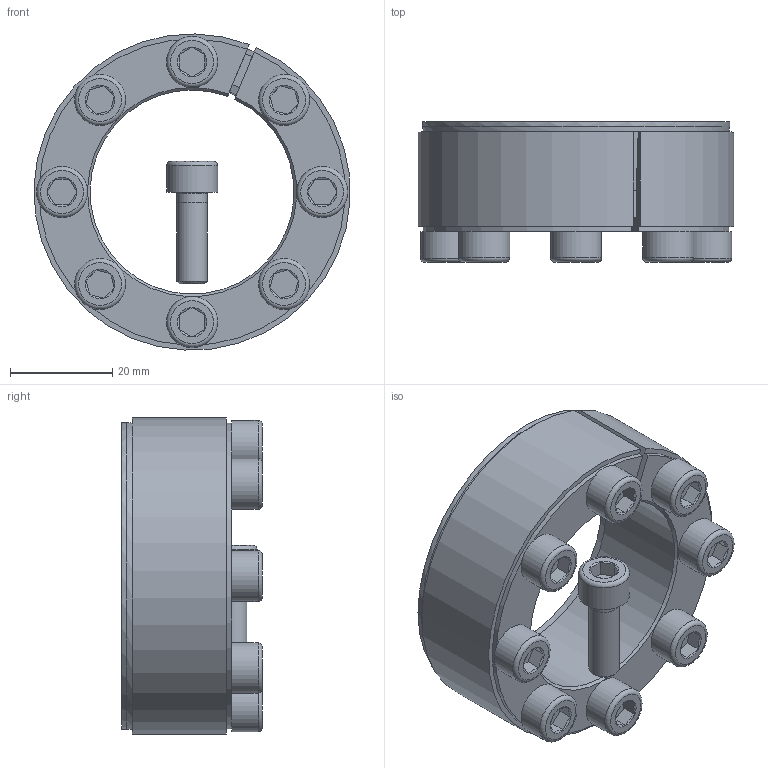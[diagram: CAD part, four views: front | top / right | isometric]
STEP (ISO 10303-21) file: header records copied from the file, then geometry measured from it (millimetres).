
FILE_DESCRIPTION( ( 'Unknown' ), '1' );
FILE_NAME( 'C:/Dokumente und Einstellungen/Sven/Desktop/homepage/cad - homepage/KBS52/KBS 52 - 40 x 62.stp', 'Unknown', ( 'Unknown' ), ( 'Unknown' ), 'XStep 1.0', 'Unknown', ' ' );
FILE_SCHEMA( ( 'automotive_design' ) );
Length unit declared in the file: millimetre
Products named in the file (3): Assem1; KBS 52 - 40 x 62; ISO EN DIN 4762 M6x18
Bounding box: 61.93 x 27.5 x 61.96 mm (x, y, z)
Volume: 72376.2 mm3; surface area: 33317.1 mm2
Topology: 11 solids, 11 shells, 281 faces, 553 edges, 328 vertices
Faces by surface type: plane 134, cone 69, cylinder 60, torus 18
Full cylindrical faces by diameter (mm): 5 x9, 6 x34, 10 x9, 60.175 x2
Entity records: 1741 total; most frequent: CARTESIAN_POINT 283, DIRECTION 263, ORIENTED_EDGE 196, AXIS2_PLACEMENT_3D 110, EDGE_CURVE 98, EDGE_LOOP 92, VERTEX_POINT 70, FACE_OUTER_BOUND 68
